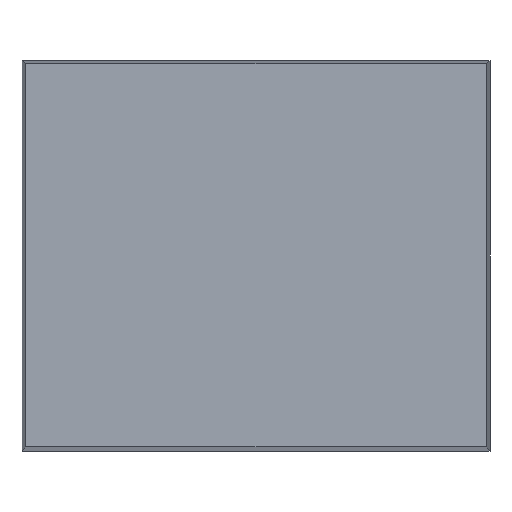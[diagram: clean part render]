
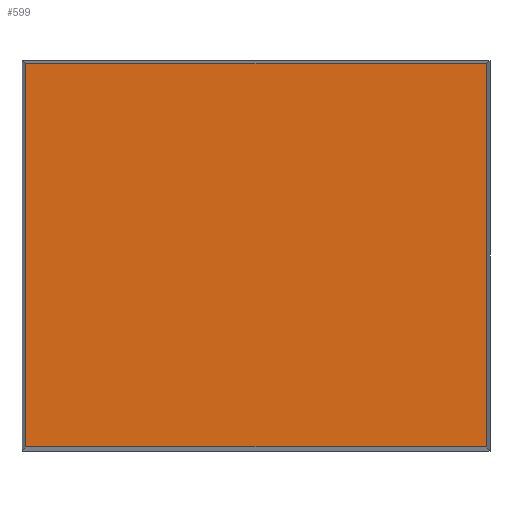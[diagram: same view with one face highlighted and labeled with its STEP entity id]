
A CAD part, top view. The second image highlights one B-rep face of the part: STEP entity #599.
In plain terms, the highlighted planar face has unit normal (0, 0, 1).
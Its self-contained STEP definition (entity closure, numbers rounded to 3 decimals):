
#3 = ORIENTED_EDGE ( 'NONE', *, *, #209, .T. ) ;
#15 = CARTESIAN_POINT ( 'NONE',  ( 5.661, 4.8, 10.2 ) ) ;
#34 = VECTOR ( 'NONE', #187, 1000. ) ;
#81 = LINE ( 'NONE', #800, #590 ) ;
#107 = PLANE ( 'NONE',  #682 ) ;
#125 = VERTEX_POINT ( 'NONE', #480 ) ;
#129 = CARTESIAN_POINT ( 'NONE',  ( 5.661, -4.711, 10.2 ) ) ;
#143 = LINE ( 'NONE', #602, #301 ) ;
#150 = ORIENTED_EDGE ( 'NONE', *, *, #374, .T. ) ;
#172 = FACE_OUTER_BOUND ( 'NONE', #410, .T. ) ;
#184 = CARTESIAN_POINT ( 'NONE',  ( 5.661, 4.711, 10.2 ) ) ;
#187 = DIRECTION ( 'NONE',  ( 0., 1., 0. ) ) ;
#207 = VERTEX_POINT ( 'NONE', #184 ) ;
#209 = EDGE_CURVE ( 'NONE', #252, #207, #646, .T. ) ;
#252 = VERTEX_POINT ( 'NONE', #129 ) ;
#263 = ORIENTED_EDGE ( 'NONE', *, *, #896, .T. ) ;
#301 = VECTOR ( 'NONE', #371, 1000. ) ;
#371 = DIRECTION ( 'NONE',  ( -1., 0., 0. ) ) ;
#374 = EDGE_CURVE ( 'NONE', #125, #252, #433, .T. ) ;
#410 = EDGE_LOOP ( 'NONE', ( #3, #263, #865, #150 ) ) ;
#414 = CARTESIAN_POINT ( 'NONE',  ( 0., 0., 10.2 ) ) ;
#433 = LINE ( 'NONE', #738, #838 ) ;
#452 = CARTESIAN_POINT ( 'NONE',  ( -5.661, 4.711, 10.2 ) ) ;
#469 = VERTEX_POINT ( 'NONE', #452 ) ;
#480 = CARTESIAN_POINT ( 'NONE',  ( -5.661, -4.711, 10.2 ) ) ;
#590 = VECTOR ( 'NONE', #702, 1000. ) ;
#599 = ADVANCED_FACE ( 'NONE', ( #172 ), #107, .T. ) ;
#602 = CARTESIAN_POINT ( 'NONE',  ( -5.75, 4.711, 10.2 ) ) ;
#646 = LINE ( 'NONE', #15, #34 ) ;
#682 = AXIS2_PLACEMENT_3D ( 'NONE', #414, #884, #955 ) ;
#702 = DIRECTION ( 'NONE',  ( 0., -1., 0. ) ) ;
#738 = CARTESIAN_POINT ( 'NONE',  ( -5.75, -4.711, 10.2 ) ) ;
#800 = CARTESIAN_POINT ( 'NONE',  ( -5.661, 4.8, 10.2 ) ) ;
#838 = VECTOR ( 'NONE', #981, 1000. ) ;
#865 = ORIENTED_EDGE ( 'NONE', *, *, #1007, .T. ) ;
#884 = DIRECTION ( 'NONE',  ( 0., 0., 1. ) ) ;
#896 = EDGE_CURVE ( 'NONE', #207, #469, #143, .T. ) ;
#955 = DIRECTION ( 'NONE',  ( 1., 0., 0. ) ) ;
#981 = DIRECTION ( 'NONE',  ( 1., 0., 0. ) ) ;
#1007 = EDGE_CURVE ( 'NONE', #469, #125, #81, .T. ) ;
